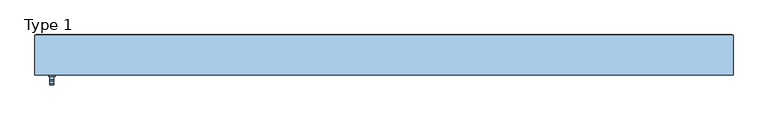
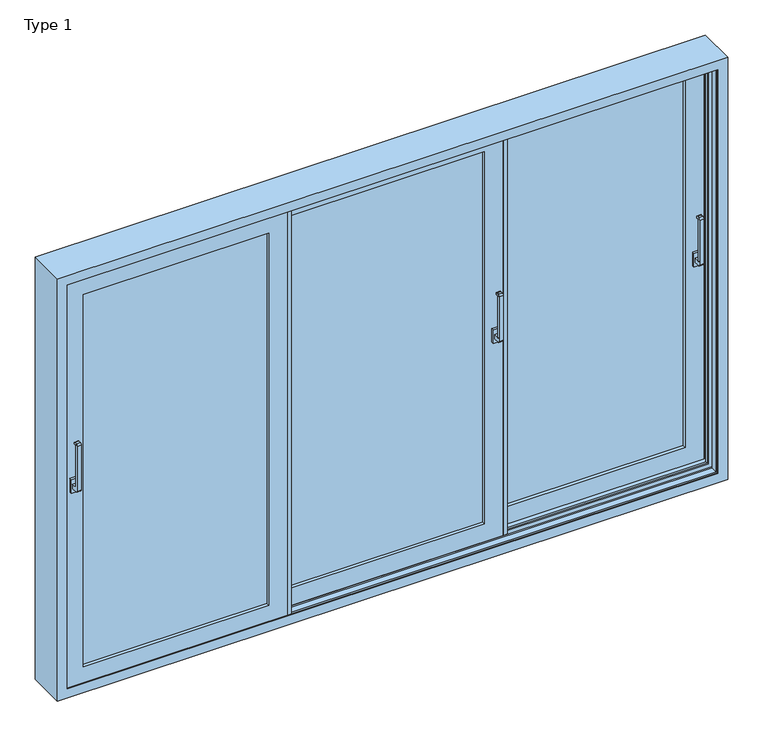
"""IFC4 building model written with IfcOpenShell, lengths in millimetres: window geometry, ETEM_E50_Triple_Lift_Sliding : Type 1."""

from ifc_helpers import new_model, si_unit, point, frame, frame_2d, origin, place, context, project, spatial, polyline, circle_curve, trimmed, segment, composite_curve, outline, extrude, faceted_brep, source, transform, mapped, element, save


def type_1_fe7a6dfb(model_context):
    return source(origin(), model_context, "Body", "SolidModel", [
        extrude(outline(composite_curve([segment(polyline([(-28.6518056, 1090.0), (-60.2254904, 1090.0)]), True, "CONTINUOUS"), segment(trimmed(circle_curve(frame_2d((-60.2254904, 1098.4263152)), 8.4263152), [point((-60.2254904, 1090.0))], [point((-68.6518056, 1098.4263152))], False, "CARTESIAN"), True, "CONTINUOUS"), segment(polyline([(-68.6518056, 1098.4263152), (-68.6518056, 1331.5736848)]), True, "CONTINUOUS"), segment(trimmed(circle_curve(frame_2d((-60.2254904, 1331.5736848)), 8.4263152), [point((-68.6518056, 1331.5736848))], [point((-60.2254904, 1340.0))], False, "CARTESIAN"), True, "CONTINUOUS"), segment(polyline([(-60.2254904, 1340.0), (-48.6518056, 1340.0)]), True, "CONTINUOUS"), segment(trimmed(circle_curve(frame_2d((-48.6518056, 1335.0)), 5.0), [point((-48.6518056, 1340.0))], [point((-48.6518056, 1330.0))], False, "CARTESIAN"), True, "CONTINUOUS"), segment(polyline([(-48.6518056, 1330.0), (-55.1162717, 1330.0)]), True, "CONTINUOUS"), segment(trimmed(circle_curve(frame_2d((-55.1162717, 1326.4644661)), 3.5355339), [point((-55.1162717, 1330.0))], [point((-58.6518056, 1326.4644661))], True, "CARTESIAN"), True, "CONTINUOUS"), segment(polyline([(-58.6518056, 1326.4644661), (-58.6518056, 1113.5355339)]), True, "CONTINUOUS"), segment(trimmed(circle_curve(frame_2d((-55.1162717, 1113.5355339)), 3.5355339), [point((-58.6518056, 1113.5355339))], [point((-55.1162717, 1110.0))], True, "CARTESIAN"), True, "CONTINUOUS"), segment(polyline([(-55.1162717, 1110.0), (-28.6518056, 1110.0), (-28.6518056, 1090.0)]), True, "CONTINUOUS")], self_intersect=False)), frame((534.9657671, 0.0, 0.0), z_axis=(1.0, 0.0, 0.0), x_axis=(0.0, 1.0, 0.0)), (0.0, 0.0, 1.0), 20.0),
        extrude(outline(polyline([(529.9657671, -28.6518056), (529.9657671, -15.6518056), (559.9657671, -15.6518056), (559.9657671, -28.6518056), (529.9657671, -28.6518056)])), frame((0.0, 0.0, 1065.0), z_axis=(0.0, 0.0, 1.0), x_axis=(1.0, 0.0, 0.0)), (0.0, 0.0, 1.0), 70.0),
        extrude(outline(composite_curve([segment(polyline([(36.3481944, 1090.0), (4.7745096, 1090.0)]), True, "CONTINUOUS"), segment(trimmed(circle_curve(frame_2d((4.7745096, 1098.4263152)), 8.4263152), [point((4.7745096, 1090.0))], [point((-3.6518056, 1098.4263152))], False, "CARTESIAN"), True, "CONTINUOUS"), segment(polyline([(-3.6518056, 1098.4263152), (-3.6518056, 1331.5736848)]), True, "CONTINUOUS"), segment(trimmed(circle_curve(frame_2d((4.7745096, 1331.5736848)), 8.4263152), [point((-3.6518056, 1331.5736848))], [point((4.7745096, 1340.0))], False, "CARTESIAN"), True, "CONTINUOUS"), segment(polyline([(4.7745096, 1340.0), (16.3481944, 1340.0)]), True, "CONTINUOUS"), segment(trimmed(circle_curve(frame_2d((16.3481944, 1335.0)), 5.0), [point((16.3481944, 1340.0))], [point((16.3481944, 1330.0))], False, "CARTESIAN"), True, "CONTINUOUS"), segment(polyline([(16.3481944, 1330.0), (9.8837283, 1330.0)]), True, "CONTINUOUS"), segment(trimmed(circle_curve(frame_2d((9.8837283, 1326.4644661)), 3.5355339), [point((9.8837283, 1330.0))], [point((6.3481944, 1326.4644661))], True, "CARTESIAN"), True, "CONTINUOUS"), segment(polyline([(6.3481944, 1326.4644661), (6.3481944, 1113.5355339)]), True, "CONTINUOUS"), segment(trimmed(circle_curve(frame_2d((9.8837283, 1113.5355339)), 3.5355339), [point((6.3481944, 1113.5355339))], [point((9.8837283, 1110.0))], True, "CARTESIAN"), True, "CONTINUOUS"), segment(polyline([(9.8837283, 1110.0), (36.3481944, 1110.0), (36.3481944, 1090.0)]), True, "CONTINUOUS")], self_intersect=False)), frame((1559.999965, 0.0, 0.0), z_axis=(1.0, 0.0, 0.0), x_axis=(0.0, 1.0, 0.0)), (0.0, 0.0, 1.0), 20.0),
        extrude(outline(polyline([(1554.999965, 36.3481944), (1554.999965, 49.3481944), (1584.999965, 49.3481944), (1584.999965, 36.3481944), (1554.999965, 36.3481944)])), frame((0.0, 0.0, 1065.0), z_axis=(0.0, 0.0, 1.0), x_axis=(1.0, 0.0, 0.0)), (0.0, 0.0, 1.0), 70.0),
        extrude(outline(composite_curve([segment(polyline([(-93.6518056, 1090.0), (-125.2254904, 1090.0)]), True, "CONTINUOUS"), segment(trimmed(circle_curve(frame_2d((-125.2254904, 1098.4263152)), 8.4263152), [point((-125.2254904, 1090.0))], [point((-133.6518056, 1098.4263152))], False, "CARTESIAN"), True, "CONTINUOUS"), segment(polyline([(-133.6518056, 1098.4263152), (-133.6518056, 1331.5736848)]), True, "CONTINUOUS"), segment(trimmed(circle_curve(frame_2d((-125.2254904, 1331.5736848)), 8.4263152), [point((-133.6518056, 1331.5736848))], [point((-125.2254904, 1340.0))], False, "CARTESIAN"), True, "CONTINUOUS"), segment(polyline([(-125.2254904, 1340.0), (-113.6518056, 1340.0)]), True, "CONTINUOUS"), segment(trimmed(circle_curve(frame_2d((-113.6518056, 1335.0)), 5.0), [point((-113.6518056, 1340.0))], [point((-113.6518056, 1330.0))], False, "CARTESIAN"), True, "CONTINUOUS"), segment(polyline([(-113.6518056, 1330.0), (-120.1162717, 1330.0)]), True, "CONTINUOUS"), segment(trimmed(circle_curve(frame_2d((-120.1162717, 1326.4644661)), 3.5355339), [point((-120.1162717, 1330.0))], [point((-123.6518056, 1326.4644661))], True, "CARTESIAN"), True, "CONTINUOUS"), segment(polyline([(-123.6518056, 1326.4644661), (-123.6518056, 1113.5355339)]), True, "CONTINUOUS"), segment(trimmed(circle_curve(frame_2d((-120.1162717, 1113.5355339)), 3.5355339), [point((-123.6518056, 1113.5355339))], [point((-120.1162717, 1110.0))], True, "CARTESIAN"), True, "CONTINUOUS"), segment(polyline([(-120.1162717, 1110.0), (-93.6518056, 1110.0), (-93.6518056, 1090.0)]), True, "CONTINUOUS")], self_intersect=False)), frame((-1579.999965, 0.0, 0.0), z_axis=(1.0, 0.0, 0.0), x_axis=(0.0, 1.0, 0.0)), (0.0, 0.0, 1.0), 20.0),
        extrude(outline(polyline([(-1584.999965, -93.6518056), (-1584.999965, -80.6518056), (-1554.999965, -80.6518056), (-1554.999965, -93.6518056), (-1584.999965, -93.6518056)])), frame((0.0, 0.0, 1065.0), z_axis=(0.0, 0.0, 1.0), x_axis=(1.0, 0.0, 0.0)), (0.0, 0.0, 1.0), 70.0),
        faceted_brep([(514.5, 94.6481944, 2160.5), (514.5, 99.3481944, 2160.5), (514.5, 99.3481944, 39.5000339), (514.5, 94.6481944, 39.5000339), (1610.499965, 99.3481944, 2160.5), (1610.499965, 99.3481944, 39.5000339), (606.0, 99.3481944, 131.0000339), (1518.999965, 99.3481944, 131.0000339), (1518.999965, 99.3481944, 2069.0), (606.0, 99.3481944, 2069.0), (1610.499965, 94.6481944, 39.5000339), (1610.499965, 94.6481944, 2160.5), (543.7, 94.6481944, 2131.3), (1581.299965, 94.6481944, 2131.3), (1581.299965, 94.6481944, 68.7000339), (543.7, 94.6481944, 68.7000339), (543.7, 54.0481944, 2131.3), (543.7, 54.0481944, 68.7000339), (1581.299965, 54.0481944, 68.7000339), (514.5, 54.0481944, 2160.5), (1610.499965, 54.0481944, 2160.5), (1610.499965, 54.0481944, 39.5000339), (514.5, 54.0481944, 39.5000339), (1581.299965, 54.0481944, 2131.3), (514.5, 49.3481944, 2160.5), (514.5, 49.3481944, 39.5000339), (1610.499965, 49.3481944, 39.5000339), (1610.499965, 49.3481944, 2160.5), (606.0, 49.3481944, 2069.0), (1518.999965, 49.3481944, 2069.0), (1518.999965, 49.3481944, 131.0000339), (606.0, 49.3481944, 131.0000339)], [[[0, 1, 2, 3]], [[1, 4, 5, 2], [6, 7, 8, 9]], [[3, 2, 5, 10]], [[3, 10, 11, 0], [12, 13, 14, 15]], [[16, 12, 15, 17]], [[17, 15, 14, 18]], [[19, 20, 21, 22], [17, 18, 23, 16]], [[24, 19, 22, 25]], [[25, 22, 21, 26]], [[25, 26, 27, 24], [28, 29, 30, 31]], [[9, 28, 31, 6]], [[6, 31, 30, 7]], [[10, 5, 4, 11]], [[18, 14, 13, 23]], [[26, 21, 20, 27]], [[7, 30, 29, 8]], [[11, 4, 1, 0]], [[23, 13, 12, 16]], [[27, 20, 19, 24]], [[8, 29, 28, 9]]]),
        extrude(outline(polyline([(606.0, -15.6259028), (585.5, -15.6259028), (585.5, 45.3481944), (606.0, 45.3481944), (606.0, -15.6259028)])), frame((0.0, 0.0, 39.5000339), z_axis=(0.0, 0.0, 1.0), x_axis=(1.0, 0.0, 0.0)), (0.0, 0.0, 1.0), 2120.9999661),
        extrude(outline(polyline([(494.0, 99.3481944), (514.5, 99.3481944), (514.5, 38.3481944), (494.0, 38.3481944), (494.0, 99.3481944)])), frame((0.0, 0.0, 39.5000339), z_axis=(0.0, 0.0, 1.0), x_axis=(1.0, 0.0, 0.0)), (0.0, 0.0, 1.0), 2120.9999661),
        extrude(outline(polyline([(606.0, 91.3481944), (1518.999965, 91.3481944), (1518.999965, 86.3481944), (606.0, 86.3481944), (606.0, 91.3481944)])), frame((0.0, 0.0, 131.0000339), z_axis=(0.0, 0.0, 1.0), x_axis=(1.0, 0.0, 0.0)), (0.0, 0.0, 1.0), 1937.9999661),
        extrude(outline(polyline([(-494.0, 26.3481944), (494.0, 26.3481944), (494.0, 21.3481944), (-494.0, 21.3481944), (-494.0, 26.3481944)])), frame((0.0, 0.0, 131.0000339), z_axis=(0.0, 0.0, 1.0), x_axis=(1.0, 0.0, 0.0)), (0.0, 0.0, 1.0), 1937.9999661),
        extrude(outline(polyline([(606.0, 70.3481944), (1518.999965, 70.3481944), (1518.999965, 65.3481944), (606.0, 65.3481944), (606.0, 70.3481944)])), frame((0.0, 0.0, 131.0000339), z_axis=(0.0, 0.0, 1.0), x_axis=(1.0, 0.0, 0.0)), (0.0, 0.0, 1.0), 1937.9999661),
        extrude(outline(polyline([(-494.0, 5.3481944), (494.0, 5.3481944), (494.0, 0.3481944), (-494.0, 0.3481944), (-494.0, 5.3481944)])), frame((0.0, 0.0, 131.0000339), z_axis=(0.0, 0.0, 1.0), x_axis=(1.0, 0.0, 0.0)), (0.0, 0.0, 1.0), 1937.9999661),
        faceted_brep([(-606.0, -80.6518056, 2069.0), (-606.0, -30.6518056, 2069.0), (-606.0, -30.6518056, 131.0000339), (-606.0, -80.6518056, 131.0000339), (-1518.999965, -30.6518056, 131.0000339), (-1518.999965, -80.6518056, 131.0000339), (-1610.499965, -30.6518056, 39.5000339), (-1610.499965, -30.6518056, 2160.5), (-514.5, -30.6518056, 2160.5), (-514.5, -30.6518056, 39.5000339), (-1518.999965, -30.6518056, 2069.0), (-1518.999965, -80.6518056, 2069.0), (-514.5, -80.6518056, 39.5000339), (-514.5, -80.6518056, 2160.5), (-1610.499965, -80.6518056, 2160.5), (-1610.499965, -80.6518056, 39.5000339), (-514.5, -75.9518056, 2160.5), (-514.5, -75.9518056, 39.5000339), (-1610.499965, -75.9518056, 39.5000339), (-1610.499965, -75.9518056, 2160.5), (-543.7, -75.9518056, 68.7000339), (-543.7, -75.9518056, 2131.3), (-1581.299965, -75.9518056, 2131.3), (-1581.299965, -75.9518056, 68.7000339), (-543.7, -35.3518056, 2131.3), (-543.7, -35.3518056, 68.7000339), (-1581.299965, -35.3518056, 68.7000339), (-1581.299965, -35.3518056, 2131.3), (-514.5, -35.3518056, 39.5000339), (-514.5, -35.3518056, 2160.5), (-1610.499965, -35.3518056, 2160.5), (-1610.499965, -35.3518056, 39.5000339)], [[[0, 1, 2, 3]], [[3, 2, 4, 5]], [[6, 7, 8, 9], [2, 1, 10, 4]], [[5, 4, 10, 11]], [[12, 13, 14, 15], [5, 11, 0, 3]], [[16, 13, 12, 17]], [[17, 12, 15, 18]], [[18, 15, 14, 19]], [[18, 19, 16, 17], [20, 21, 22, 23]], [[24, 21, 20, 25]], [[25, 20, 23, 26]], [[26, 23, 22, 27]], [[28, 29, 30, 31], [26, 27, 24, 25]], [[8, 29, 28, 9]], [[9, 28, 31, 6]], [[6, 31, 30, 7]], [[11, 10, 1, 0]], [[19, 14, 13, 16]], [[27, 22, 21, 24]], [[7, 30, 29, 8]]]),
        extrude(outline(polyline([(-494.0, -19.6518056), (-494.0, -80.6518056), (-514.5, -80.6518056), (-514.5, -19.6518056), (-494.0, -19.6518056)])), frame((0.0, 0.0, 39.5000339), z_axis=(0.0, 0.0, 1.0), x_axis=(1.0, 0.0, 0.0)), (0.0, 0.0, 1.0), 2120.9999661),
        extrude(outline(polyline([(-605.9, -26.6518056), (-605.9, 34.3481944), (-585.5, 34.3481944), (-585.5, -26.6518056), (-605.9, -26.6518056)])), frame((0.0, 0.0, 39.5000339), z_axis=(0.0, 0.0, 1.0), x_axis=(1.0, 0.0, 0.0)), (0.0, 0.0, 1.0), 2120.9999661),
        extrude(outline(polyline([(-1518.999965, -38.6518056), (-606.0, -38.6518056), (-606.0, -43.6518056), (-1518.999965, -43.6518056), (-1518.999965, -38.6518056)])), frame((0.0, 0.0, 131.0000339), z_axis=(0.0, 0.0, 1.0), x_axis=(1.0, 0.0, 0.0)), (0.0, 0.0, 1.0), 1937.9999661),
        extrude(outline(polyline([(-1518.999965, -59.6518056), (-606.0, -59.6518056), (-606.0, -64.6518056), (-1518.999965, -64.6518056), (-1518.999965, -59.6518056)])), frame((0.0, 0.0, 131.0000339), z_axis=(0.0, 0.0, 1.0), x_axis=(1.0, 0.0, 0.0)), (0.0, 0.0, 1.0), 1937.9999661),
        faceted_brep([(494.0, -15.6259028, 2069.0), (494.0, 34.3740972, 2069.0), (494.0, 34.3740972, 131.0000339), (494.0, -15.6259028, 131.0000339), (-494.0, 34.3740972, 131.0000339), (-494.0, -15.6259028, 131.0000339), (-585.5, 34.3740972, 39.5000339), (-585.5, 34.3740972, 2160.5), (585.5, 34.3740972, 2160.5), (585.5, 34.3740972, 39.5000339), (-494.0, 34.3740972, 2069.0), (-494.0, -15.6259028, 2069.0), (585.5, -15.6259028, 39.5000339), (585.5, -15.6259028, 2160.5), (-585.5, -15.6259028, 2160.5), (-585.5, -15.6259028, 39.5000339), (585.5, -10.9259028, 2160.5), (585.5, -10.9259028, 39.5000339), (-585.5, -10.9259028, 39.5000339), (-585.5, -10.9259028, 2160.5), (556.3, -10.9259028, 68.7000339), (556.3, -10.9259028, 2131.3), (-556.3, -10.9259028, 2131.3), (-556.3, -10.9259028, 68.7000339), (556.3, 29.6740972, 2131.3), (556.3, 29.6740972, 68.7000339), (-556.3, 29.6740972, 68.7000339), (-556.3, 29.6740972, 2131.3), (585.5, 29.6740972, 39.5000339), (585.5, 29.6740972, 2160.5), (-585.5, 29.6740972, 2160.5), (-585.5, 29.6740972, 39.5000339)], [[[0, 1, 2, 3]], [[3, 2, 4, 5]], [[6, 7, 8, 9], [2, 1, 10, 4]], [[5, 4, 10, 11]], [[12, 13, 14, 15], [5, 11, 0, 3]], [[16, 13, 12, 17]], [[17, 12, 15, 18]], [[18, 15, 14, 19]], [[18, 19, 16, 17], [20, 21, 22, 23]], [[24, 21, 20, 25]], [[25, 20, 23, 26]], [[26, 23, 22, 27]], [[28, 29, 30, 31], [26, 27, 24, 25]], [[8, 29, 28, 9]], [[9, 28, 31, 6]], [[6, 31, 30, 7]], [[11, 10, 1, 0]], [[19, 14, 13, 16]], [[27, 22, 21, 24]], [[7, 30, 29, 8]]]),
        faceted_brep([(1650.0, 103.5481944, 2200.0), (1650.0, -86.2518056, 2200.0), (1650.0, -86.2518056, 0.0), (1650.0, 103.5481944, 0.0), (-1650.0, -86.2518056, 2200.0), (-1650.0, -86.2518056, 0.0), (1601.5, -86.2518056, 2151.5), (1601.5, -86.2518056, 48.5), (-1601.5, -86.2518056, 48.5), (-1601.5, -86.2518056, 2151.5), (-1650.0, 103.5481944, 0.0), (-1646.5, 103.5481944, 0.0), (-1646.5, 105.0, 0.0), (-1601.5, 105.0, 0.0), (-1601.5, 103.5481944, 0.0), (1601.5, 103.5481944, 0.0), (1601.5, 105.0, 0.0), (1646.5, 105.0, 0.0), (1646.5, 103.5481944, 0.0), (1646.5, 103.5481944, 2196.5), (-1646.5, 103.5481944, 2196.5), (-1650.0, 103.5481944, 2200.0), (-1601.5, 103.5481944, 19.8), (1601.5, 103.5481944, 19.8), (1628.2, 101.4, 2178.2), (1628.2, 101.4, 19.8), (1628.2, 92.0481944, 19.8), (1628.2, 92.0481944, 21.8), (1628.2, 78.8481944, 21.8), (1628.2, 78.8481944, 2178.2), (-1628.2, 92.0481944, 21.8), (-1628.2, 78.8481944, 21.8), (-1628.2, 78.8481944, 2178.2), (1609.5, 78.8481944, 40.5), (1609.5, 78.8481944, 2159.5), (-1609.5, 78.8481944, 2159.5), (-1609.5, 78.8481944, 40.5), (1609.5, 90.3481944, 2159.5), (1609.5, 90.3481944, 40.5), (-1609.5, 90.3481944, 40.5), (-1609.5, 90.3481944, 2159.5), (1601.5, 90.3481944, 48.5), (1601.5, 90.3481944, 2151.5), (-1601.5, 90.3481944, 2151.5), (-1601.5, 90.3481944, 48.5), (1601.5, 58.3481944, 2151.5), (1601.5, 58.3481944, 48.5), (-1601.5, 58.3481944, 48.5), (1628.2, 69.8481944, 2178.2), (-1628.2, 69.8481944, 2178.2), (-1628.2, 69.8481944, 21.8), (1628.2, 69.8481944, 21.8), (1609.5, 69.8481944, 40.5), (-1609.5, 69.8481944, 40.5), (-1609.5, 69.8481944, 2159.5), (1609.5, 69.8481944, 2159.5), (1628.2, -51.1518056, 2178.2), (1628.2, 3.9241606, 2178.2), (1628.2, 3.9241606, 21.8), (1628.2, -51.1518056, 21.8), (-1628.2, 3.9241606, 21.8), (-1628.2, -51.1518056, 21.8), (1628.2, -82.6518056, 2178.2), (1628.2, -60.1518056, 2178.2), (1628.2, -60.1518056, 21.8), (1628.2, -82.6518056, 21.8), (-1628.2, -60.1518056, 21.8), (-1628.2, -82.6518056, 21.8), (-1628.2, -82.6518056, 2178.2), (1601.5, -82.6518056, 48.5), (1601.5, -82.6518056, 2151.5), (-1601.5, -82.6518056, 2151.5), (-1601.5, -82.6518056, 48.5), (-1628.2, 92.0481944, 19.8), (-1628.2, 101.4, 19.8), (-1628.2, 101.4, 2178.2), (-1601.5, 58.3481944, 2151.5), (-1628.2, 3.9241606, 2178.2), (-1628.2, -51.1518056, 2178.2), (-1628.2, -60.1518056, 2178.2), (-1646.5, 105.0, 2196.5), (1646.5, 105.0, 2196.5), (1601.5, 105.0, 2151.5), (-1601.5, 105.0, 2151.5), (-1601.5, 101.4, 2151.5), (-1601.5, 101.4, 19.8), (1601.5, 101.4, 2151.5), (1601.5, 101.4, 19.8), (1607.4, 3.9241606, 2157.4), (1607.4, 3.9241606, 42.6), (-1607.4, 3.9241606, 42.6), (-1607.4, 3.9241606, 2157.4), (-1628.2, 12.9241606, 2178.2), (-1628.2, 12.9241606, 21.8), (1628.2, 12.9241606, 21.8), (1628.2, 12.9241606, 2178.2), (1607.4, 12.9241606, 42.6), (1607.4, 12.9241606, 2157.4), (-1607.4, 12.9241606, 2157.4), (-1607.4, 12.9241606, 42.6), (1607.4, 14.4241606, 2157.4), (1607.4, 14.4241606, 42.6), (-1607.4, 14.4241606, 42.6), (-1607.4, 14.4241606, 2157.4), (1602.0, 14.4241606, 48.0), (1602.0, 14.4241606, 2152.0), (-1602.0, 14.4241606, 2152.0), (-1602.0, 14.4241606, 48.0), (1602.0, 2.4241606, 2152.0), (1602.0, 2.4241606, 48.0), (-1602.0, 2.4241606, 48.0), (1607.4, 2.4241606, 42.6), (1607.4, 2.4241606, 2157.4), (-1607.4, 2.4241606, 2157.4), (-1607.4, 2.4241606, 42.6), (-1602.0, 2.4241606, 2152.0), (1609.5, 58.3481944, 40.5), (1609.5, 58.3481944, 2159.5), (-1609.5, 58.3481944, 2159.5), (-1609.5, 58.3481944, 40.5), (1609.5, -51.1518056, 40.5), (1609.5, -51.1518056, 2159.5), (-1609.5, -51.1518056, 2159.5), (-1609.5, -51.1518056, 40.5), (1609.5, -60.1518056, 2159.5), (1609.5, -60.1518056, 40.5), (-1609.5, -60.1518056, 40.5), (-1609.5, -60.1518056, 2159.5), (1609.5, -39.6518056, 2159.5), (1609.5, -39.6518056, 40.5), (-1609.5, -39.6518056, 40.5), (-1609.5, -39.6518056, 2159.5), (1601.5, -39.6518056, 48.5), (1601.5, -39.6518056, 2151.5), (-1601.5, -39.6518056, 2151.5), (-1601.5, -39.6518056, 48.5), (1601.5, -71.6518056, 2151.5), (1601.5, -71.6518056, 48.5), (-1601.5, -71.6518056, 48.5), (1609.5, -71.6518056, 40.5), (1609.5, -71.6518056, 2159.5), (-1609.5, -71.6518056, 2159.5), (-1609.5, -71.6518056, 40.5), (-1601.5, -71.6518056, 2151.5)], [[[0, 1, 2, 3]], [[2, 1, 4, 5], [6, 7, 8, 9]], [[3, 2, 5, 10, 11, 12, 13, 14, 15, 16, 17, 18]], [[0, 3, 18, 19, 20, 11, 10, 21]], [[15, 14, 22, 23]], [[24, 25, 26, 27, 28, 29]], [[28, 27, 30, 31]], [[29, 28, 31, 32], [33, 34, 35, 36]], [[37, 34, 33, 38]], [[38, 33, 36, 39]], [[37, 38, 39, 40], [41, 42, 43, 44]], [[45, 42, 41, 46]], [[46, 41, 44, 47]], [[48, 49, 50, 51], [52, 53, 54, 55]], [[56, 57, 58, 59]], [[59, 58, 60, 61]], [[62, 63, 64, 65]], [[65, 64, 66, 67]], [[62, 65, 67, 68], [69, 70, 71, 72]], [[6, 70, 69, 7]], [[7, 69, 72, 8]], [[10, 5, 4, 21]], [[31, 30, 73, 74, 75, 32]], [[39, 36, 35, 40]], [[47, 44, 43, 76]], [[61, 60, 77, 78]], [[67, 66, 79, 68]], [[8, 72, 71, 9]], [[1, 0, 21, 4]], [[24, 29, 32, 75]], [[34, 37, 40, 35]], [[42, 45, 76, 43]], [[57, 56, 78, 77]], [[63, 62, 68, 79]], [[70, 6, 9, 71]], [[12, 11, 20, 80]], [[13, 12, 80, 81, 17, 16, 82, 83]], [[13, 83, 84, 85, 22, 14]], [[86, 82, 16, 15, 23, 87]], [[18, 17, 81, 19]], [[19, 81, 80, 20]], [[82, 86, 84, 83]], [[58, 57, 77, 60], [88, 89, 90, 91]], [[50, 49, 92, 93]], [[51, 50, 93, 94]], [[48, 51, 94, 95]], [[95, 94, 93, 92], [96, 97, 98, 99]], [[100, 97, 96, 101]], [[101, 96, 99, 102]], [[100, 101, 102, 103], [104, 105, 106, 107]], [[108, 105, 104, 109]], [[109, 104, 107, 110]], [[111, 112, 113, 114], [108, 109, 110, 115]], [[88, 112, 111, 89]], [[89, 111, 114, 90]], [[102, 99, 98, 103]], [[110, 107, 106, 115]], [[90, 114, 113, 91]], [[49, 48, 95, 92]], [[97, 100, 103, 98]], [[105, 108, 115, 106]], [[112, 88, 91, 113]], [[116, 117, 118, 119], [45, 46, 47, 76]], [[56, 59, 61, 78], [120, 121, 122, 123]], [[64, 63, 79, 66], [124, 125, 126, 127]], [[53, 52, 116, 119]], [[54, 53, 119, 118]], [[52, 55, 117, 116]], [[128, 121, 120, 129]], [[129, 120, 123, 130]], [[128, 129, 130, 131], [132, 133, 134, 135]], [[136, 133, 132, 137]], [[137, 132, 135, 138]], [[139, 140, 141, 142], [136, 137, 138, 143]], [[124, 140, 139, 125]], [[125, 139, 142, 126]], [[130, 123, 122, 131]], [[138, 135, 134, 143]], [[126, 142, 141, 127]], [[55, 54, 118, 117]], [[121, 128, 131, 122]], [[133, 136, 143, 134]], [[140, 124, 127, 141]], [[84, 86, 87, 25, 24, 75, 74, 85]], [[23, 22, 85, 74, 73, 26, 25, 87]], [[30, 27, 26, 73]]]),
    ])


if __name__ == "__main__":
    model = new_model("IFC4")
    model_context = context("Model", 3, world=origin())
    ifc_project = project(units=[si_unit("LENGTHUNIT", "METRE", prefix="MILLI")], contexts=[model_context])
    site = spatial("IfcSite", under=ifc_project)
    building = spatial("IfcBuilding", under=site)
    placement = place(None, origin())
    type_1_shape = type_1_fe7a6dfb(model_context)
    element("IfcWindow", 1, ObjectType="ETEM_E50_Triple_Lift_Sliding : Type 1", at=placement, inside=building, context=model_context, shape_type="MappedRepresentation", body=[
        mapped(type_1_shape, transform((0.0, 0.0, 0.0), x_axis=(1.0, 0.0, 0.0), y_axis=(0.0, 1.0, 0.0), z_axis=(0.0, 0.0, 1.0))),
    ])
    save(model, "model.ifc")
